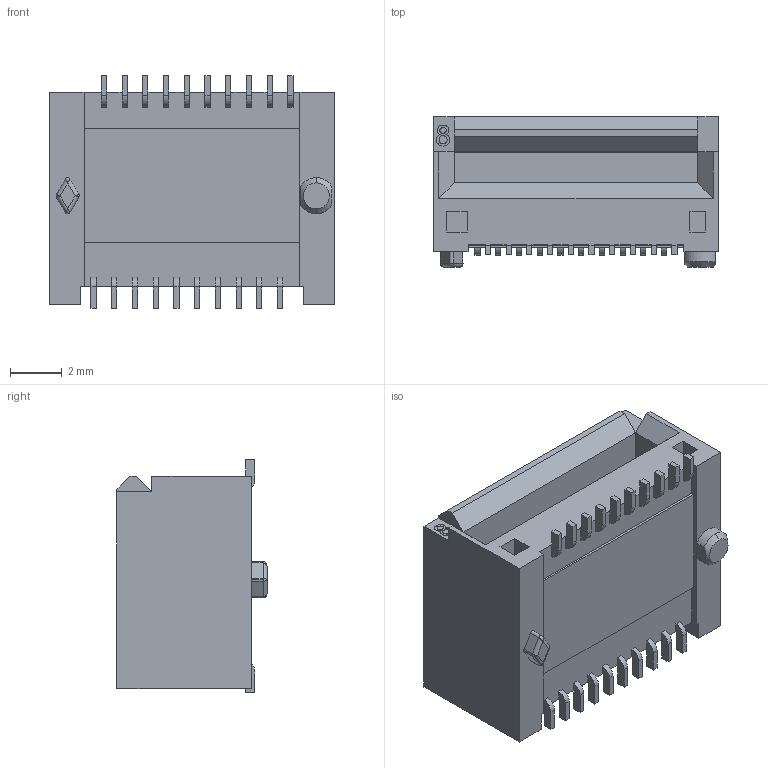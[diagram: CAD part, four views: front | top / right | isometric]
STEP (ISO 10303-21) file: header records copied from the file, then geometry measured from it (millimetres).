
FILE_DESCRIPTION (( 'STEP AP203' ), '1' );
FILE_NAME ('SFP+ 1X1连接器（3D-20210719）.STEP', '2021-07-19T01:26:29', ( '桑三博客' ), ( 'Www.SangSan.Cn' ), 'SwSTEP 2.0', 'SolidWorks 2018', '' );
FILE_SCHEMA (( 'CONFIG_CONTROL_DESIGN' ));
Length unit declared in the file: millimetre
Products named in the file (1): SFP+ 1X1连接器（3D-20210719）
Bounding box: 11 x 5.8 x 8.98 mm (x, y, z)
Volume: 343.9 mm3; surface area: 547.5 mm2
Topology: 1 solids, 1 shells, 217 faces, 606 edges, 394 vertices
Faces by surface type: plane 164, cylinder 31, bspline 20, cone 2
Entity records: 7877 total; most frequent: CARTESIAN_POINT 2352, ORIENTED_EDGE 1204, DIRECTION 1014, EDGE_CURVE 602, LINE 502, VECTOR 502, VERTEX_POINT 394, AXIS2_PLACEMENT_3D 256
